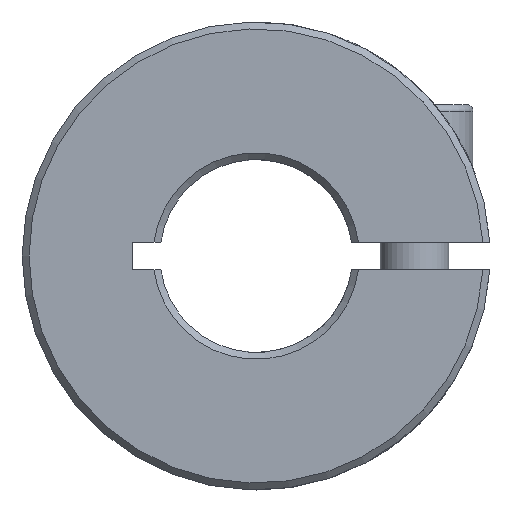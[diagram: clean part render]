
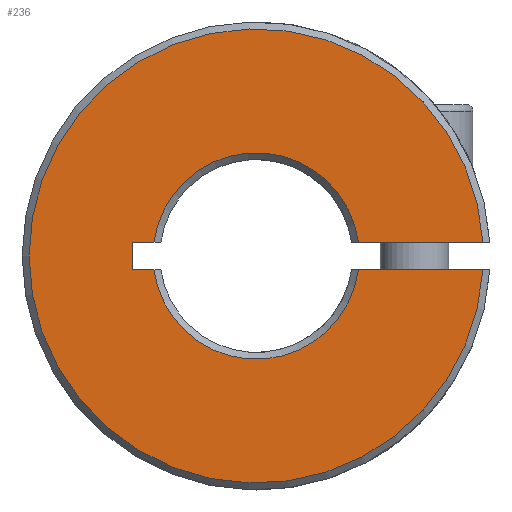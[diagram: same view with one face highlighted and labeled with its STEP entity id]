
A CAD part, front view. The second image highlights one B-rep face of the part: STEP entity #236.
In plain terms, the highlighted planar face has unit normal (0, -1, 0).
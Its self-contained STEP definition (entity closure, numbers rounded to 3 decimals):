
#236 = ADVANCED_FACE( '', ( #470 ), #471, .F. );
#470 = FACE_OUTER_BOUND( '', #702, .T. );
#471 = PLANE( '', #703 );
#702 = EDGE_LOOP( '', ( #1110, #1111, #1112, #1113, #1114, #1115, #1116, #1117 ) );
#703 = AXIS2_PLACEMENT_3D( '', #1118, #1119, #1120 );
#1110 = ORIENTED_EDGE( '', *, *, #1401, .T. );
#1111 = ORIENTED_EDGE( '', *, *, #1423, .T. );
#1112 = ORIENTED_EDGE( '', *, *, #1424, .T. );
#1113 = ORIENTED_EDGE( '', *, *, #1389, .T. );
#1114 = ORIENTED_EDGE( '', *, *, #1385, .F. );
#1115 = ORIENTED_EDGE( '', *, *, #1354, .T. );
#1116 = ORIENTED_EDGE( '', *, *, #1283, .F. );
#1117 = ORIENTED_EDGE( '', *, *, #1425, .F. );
#1118 = CARTESIAN_POINT( '', ( 0., -50., 0. ) );
#1119 = DIRECTION( '', ( 0., 1., 0. ) );
#1120 = DIRECTION( '', ( 0., 0., 1. ) );
#1283 = EDGE_CURVE( '', #1480, #1482, #1483, .T. );
#1354 = EDGE_CURVE( '', #1596, #1482, #1599, .T. );
#1385 = EDGE_CURVE( '', #1596, #1646, #1647, .T. );
#1389 = EDGE_CURVE( '', #1651, #1646, #1652, .F. );
#1401 = EDGE_CURVE( '', #1667, #1665, #1668, .T. );
#1423 = EDGE_CURVE( '', #1665, #1693, #1694, .T. );
#1424 = EDGE_CURVE( '', #1693, #1651, #1695, .T. );
#1425 = EDGE_CURVE( '', #1667, #1480, #1696, .T. );
#1480 = VERTEX_POINT( '', #1842 );
#1482 = VERTEX_POINT( '', #1845 );
#1483 = LINE( '', #1846, #1847 );
#1596 = VERTEX_POINT( '', #2431 );
#1599 = CIRCLE( '', #2437, 7.5 );
#1646 = VERTEX_POINT( '', #2492 );
#1647 = LINE( '', #2493, #2494 );
#1651 = VERTEX_POINT( '', #2502 );
#1652 = CIRCLE( '', #2503, 16.5 );
#1665 = VERTEX_POINT( '', #2526 );
#1667 = VERTEX_POINT( '', #2531 );
#1668 = LINE( '', #2532, #2533 );
#1693 = VERTEX_POINT( '', #2564 );
#1694 = CIRCLE( '', #2565, 7.5 );
#1695 = LINE( '', #2566, #2567 );
#1696 = LINE( '', #2568, #2569 );
#1842 = CARTESIAN_POINT( '', ( -9., -50., -1. ) );
#1845 = CARTESIAN_POINT( '', ( -7.433, -50., -1. ) );
#1846 = CARTESIAN_POINT( '', ( 0., -50., -1. ) );
#1847 = VECTOR( '', #2623, 1000. );
#2431 = CARTESIAN_POINT( '', ( 7.433, -50., -1. ) );
#2437 = AXIS2_PLACEMENT_3D( '', #2700, #2701, #2702 );
#2492 = CARTESIAN_POINT( '', ( 16.47, -50., -1. ) );
#2493 = CARTESIAN_POINT( '', ( 0., -50., -1. ) );
#2494 = VECTOR( '', #2750, 1000. );
#2502 = CARTESIAN_POINT( '', ( 16.47, -50., 1. ) );
#2503 = AXIS2_PLACEMENT_3D( '', #2752, #2753, #2754 );
#2526 = CARTESIAN_POINT( '', ( -7.433, -50., 1. ) );
#2531 = CARTESIAN_POINT( '', ( -9., -50., 1. ) );
#2532 = CARTESIAN_POINT( '', ( 0., -50., 1. ) );
#2533 = VECTOR( '', #2767, 1000. );
#2564 = CARTESIAN_POINT( '', ( 7.433, -50., 1. ) );
#2565 = AXIS2_PLACEMENT_3D( '', #2789, #2790, #2791 );
#2566 = CARTESIAN_POINT( '', ( 0., -50., 1. ) );
#2567 = VECTOR( '', #2792, 1000. );
#2568 = CARTESIAN_POINT( '', ( -9., -50., 0. ) );
#2569 = VECTOR( '', #2793, 1000. );
#2623 = DIRECTION( '', ( 1., 0., 0. ) );
#2700 = CARTESIAN_POINT( '', ( 0., -50., 0. ) );
#2701 = DIRECTION( '', ( 0., 1., 0. ) );
#2702 = DIRECTION( '', ( 0., 0., 1. ) );
#2750 = DIRECTION( '', ( 1., 0., 0. ) );
#2752 = CARTESIAN_POINT( '', ( 0., -50., 0. ) );
#2753 = DIRECTION( '', ( 0., 1., 0. ) );
#2754 = DIRECTION( '', ( 0., 0., 1. ) );
#2767 = DIRECTION( '', ( 1., 0., 0. ) );
#2789 = CARTESIAN_POINT( '', ( 0., -50., 0. ) );
#2790 = DIRECTION( '', ( 0., 1., 0. ) );
#2791 = DIRECTION( '', ( 0., 0., 1. ) );
#2792 = DIRECTION( '', ( 1., 0., 0. ) );
#2793 = DIRECTION( '', ( 0., 0., -1. ) );
